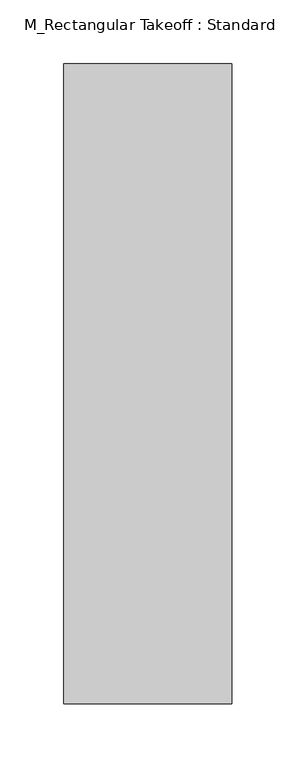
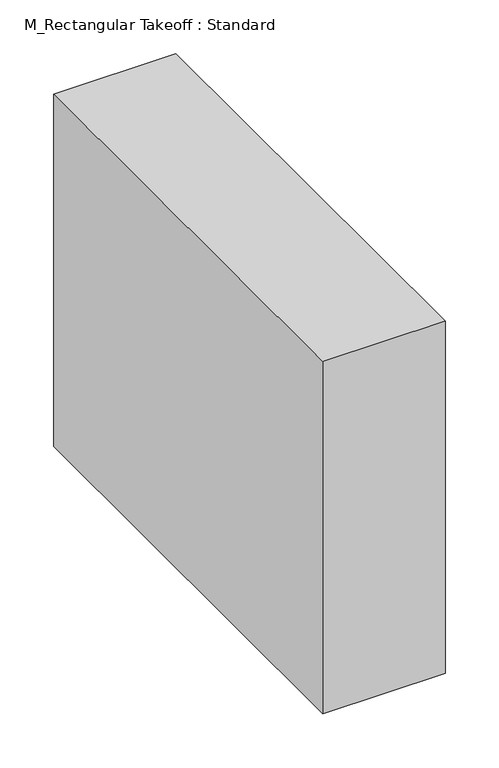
"""IFC4 building model written with IfcOpenShell, lengths in millimetres: duct fitting geometry, M_Rectangular Takeoff : Standard."""

from ifc_helpers import new_model, si_unit, frame, origin, place, context, project, spatial, polyline, outline, extrude, source, transform, mapped, element, save


def m_rectangular_takeoff_standard_178b7d1f(model_context):
    return source(origin(), model_context, "Body", "SweptSolid", [
        extrude(outline(polyline([(-6.096, -250.0), (-6.096, 250.0), (125.0, 250.0), (125.0, -250.0), (-6.096, -250.0)])), frame((0.0, 0.0, -200.0), z_axis=(0.0, 0.0, 1.0), x_axis=(1.0, 0.0, 0.0)), (0.0, 0.0, 1.0), 400.0),
        extrude(outline(polyline([(-6.096, -250.0), (-6.096, 250.0), (125.0, 250.0), (125.0, -250.0), (-6.096, -250.0)])), frame((0.0, 0.0, -200.0), z_axis=(0.0, 0.0, 1.0), x_axis=(1.0, 0.0, 0.0)), (0.0, 0.0, 1.0), 400.0),
        extrude(outline(polyline([(-6.096, -250.0), (-6.096, 250.0), (125.0, 250.0), (125.0, -250.0), (-6.096, -250.0)])), frame((0.0, 0.0, -200.0), z_axis=(0.0, 0.0, 1.0), x_axis=(1.0, 0.0, 0.0)), (0.0, 0.0, 1.0), 400.0),
    ])


if __name__ == "__main__":
    model = new_model("IFC4")
    model_context = context("Model", 3, world=origin())
    ifc_project = project(units=[si_unit("LENGTHUNIT", "METRE", prefix="MILLI")], contexts=[model_context])
    site = spatial("IfcSite", under=ifc_project)
    building = spatial("IfcBuilding", under=site)
    placement = place(None, origin())
    m_rectangular_takeoff_standard_shape = m_rectangular_takeoff_standard_178b7d1f(model_context)
    element("IfcDuctFitting", 1, ObjectType="M_Rectangular Takeoff : Standard", at=placement, inside=building, context=model_context, shape_type="MappedRepresentation", body=[
        mapped(m_rectangular_takeoff_standard_shape, transform((0.0, 0.0, 0.0), x_axis=(1.0, 0.0, 0.0), y_axis=(0.0, 1.0, 0.0), z_axis=(0.0, 0.0, 1.0))),
    ])
    save(model, "model.ifc")
